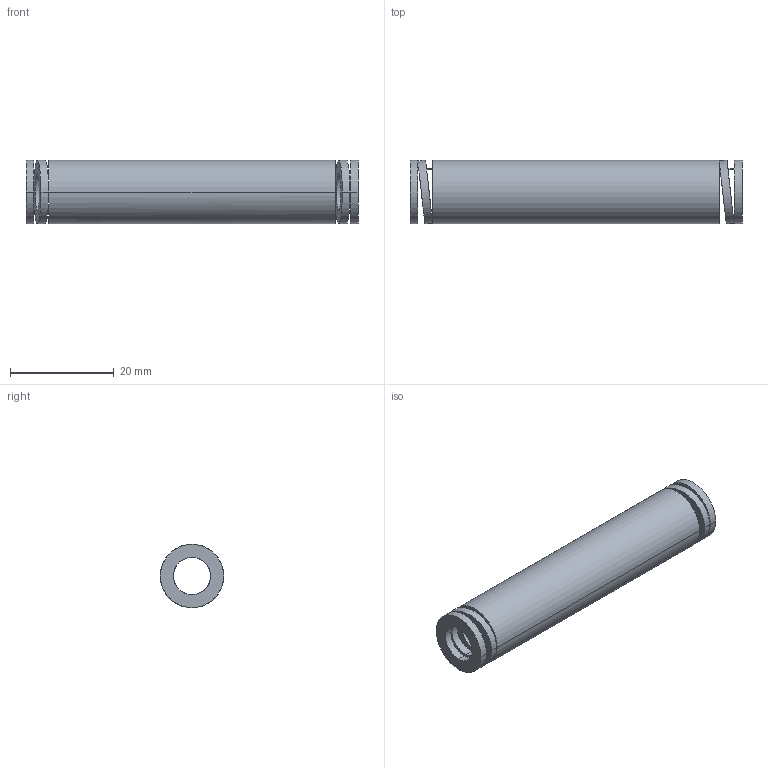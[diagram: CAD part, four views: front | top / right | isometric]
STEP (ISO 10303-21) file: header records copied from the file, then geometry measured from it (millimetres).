
FILE_DESCRIPTION(('CATIA V5 STEP Exchange'),'2;1');
FILE_NAME('C:\Users\Utente\Desktop\IO LAVORO\3D X SITO CF\X SITO\3D files 392B\392-B13-064.stp','2021-08-12T12:46:38+00:00',('none'),('none'),'CATIA Version 5 Release 20 GA (IN-10)','CATIA V5 STEP AP203','none');
FILE_SCHEMA(('CONFIG_CONTROL_DESIGN'));
Length unit declared in the file: millimetre
Products named in the file (1): 392-B13-064
Bounding box: 64 x 12.29 x 12.2 mm (x, y, z)
Volume: 4661 mm3; surface area: 4492.1 mm2
Topology: 1 solids, 1 shells, 38 faces, 92 edges, 64 vertices
Faces by surface type: cylinder 28, plane 10
Entity records: 1563 total; most frequent: CARTESIAN_POINT 670, ORIENTED_EDGE 184, DIRECTION 131, EDGE_CURVE 92, AXIS2_PLACEMENT_3D 66, VERTEX_POINT 64, EDGE_LOOP 56, ADVANCED_FACE 38
